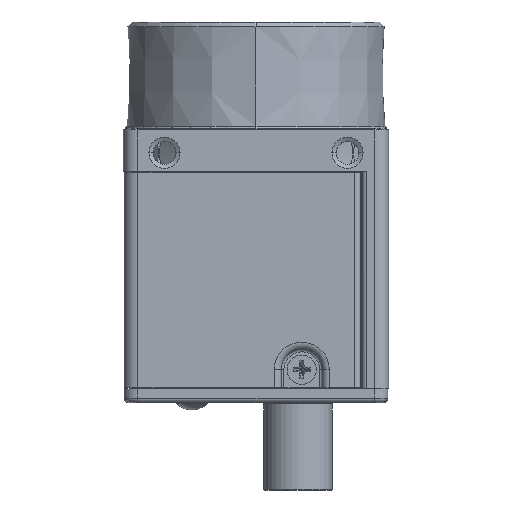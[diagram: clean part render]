
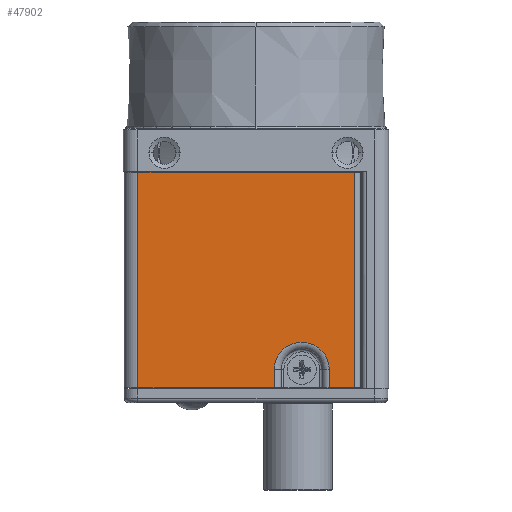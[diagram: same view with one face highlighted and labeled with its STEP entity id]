
A CAD part, left-side view. The second image highlights one B-rep face of the part: STEP entity #47902.
In plain terms, the highlighted planar face has unit normal (-1, 0, 0).
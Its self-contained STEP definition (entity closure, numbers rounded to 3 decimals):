
#9413=DIRECTION('',(0.,-1.,0.));
#9414=VECTOR('',#9413,14.892);
#9415=CARTESIAN_POINT('',(-14.4,12.9,-27.35));
#9416=LINE('',#9415,#9414);
#9452=DIRECTION('',(0.,-1.,0.));
#9453=VECTOR('',#9452,2.754);
#9454=CARTESIAN_POINT('',(-14.4,-8.008,-27.35));
#9455=LINE('',#9454,#9453);
#10065=DIRECTION('',(0.,0.,1.));
#10066=VECTOR('',#10065,23.6);
#10067=CARTESIAN_POINT('',(-14.4,-10.763,-27.35));
#10068=LINE('',#10067,#10066);
#10079=CARTESIAN_POINT('',(-14.4,-5.,-25.35));
#10080=DIRECTION('',(-1.,0.,0.));
#10081=DIRECTION('',(0.,-1.,0.));
#10082=AXIS2_PLACEMENT_3D('',#10079,#10080,#10081);
#10087=CARTESIAN_POINT('',(-14.4,-5.,-25.35));
#10088=DIRECTION('',(-1.,0.,0.));
#10089=DIRECTION('',(0.,-0.999,0.049));
#10090=AXIS2_PLACEMENT_3D('',#10087,#10088,#10089);
#10095=DIRECTION('',(0.,0.,-1.));
#10096=VECTOR('',#10095,2.);
#10097=CARTESIAN_POINT('',(-14.4,-8.008,-25.35));
#10098=LINE('',#10097,#10096);
#10169=DIRECTION('',(0.,0.,1.));
#10170=VECTOR('',#10169,2.);
#10171=CARTESIAN_POINT('',(-14.4,-1.992,-27.35));
#10172=LINE('',#10171,#10170);
#10907=DIRECTION('',(0.,0.,-1.));
#10908=VECTOR('',#10907,23.6);
#10909=CARTESIAN_POINT('',(-14.4,12.9,-3.75));
#10910=LINE('',#10909,#10908);
#10967=DIRECTION('',(0.,1.,0.));
#10968=VECTOR('',#10967,23.663);
#10969=CARTESIAN_POINT('',(-14.4,-10.763,-3.75));
#10970=LINE('',#10969,#10968);
#33782=CARTESIAN_POINT('',(-14.4,-10.763,-3.75));
#33783=VERTEX_POINT('',#33782);
#33784=CARTESIAN_POINT('',(-14.4,12.9,-3.75));
#33785=VERTEX_POINT('',#33784);
#33884=CARTESIAN_POINT('',(-14.4,12.9,-27.35));
#33885=VERTEX_POINT('',#33884);
#33886=CARTESIAN_POINT('',(-14.4,-1.992,-27.35));
#33887=VERTEX_POINT('',#33886);
#33896=CARTESIAN_POINT('',(-14.4,-8.008,-27.35));
#33897=VERTEX_POINT('',#33896);
#33898=CARTESIAN_POINT('',(-14.4,-10.763,-27.35));
#33899=VERTEX_POINT('',#33898);
#34172=CARTESIAN_POINT('',(-14.4,-8.008,-25.35));
#34173=VERTEX_POINT('',#34172);
#34174=CARTESIAN_POINT('',(-14.4,-8.005,-25.204));
#34175=VERTEX_POINT('',#34174);
#34176=CARTESIAN_POINT('',(-14.4,-1.992,-25.35));
#34177=VERTEX_POINT('',#34176);
#47880=CARTESIAN_POINT('',(-14.4,14.4,-27.45));
#47881=DIRECTION('',(-1.,0.,0.));
#47882=DIRECTION('',(0.,0.,-1.));
#47883=AXIS2_PLACEMENT_3D('',#47880,#47881,#47882);
#47884=PLANE('',#47883);
#47886=ORIENTED_EDGE('',*,*,#47885,.F.);
#47888=ORIENTED_EDGE('',*,*,#47887,.T.);
#47890=ORIENTED_EDGE('',*,*,#47889,.T.);
#47892=ORIENTED_EDGE('',*,*,#47891,.F.);
#47893=ORIENTED_EDGE('',*,*,#47190,.F.);
#47895=ORIENTED_EDGE('',*,*,#47894,.F.);
#47897=ORIENTED_EDGE('',*,*,#47896,.F.);
#47898=ORIENTED_EDGE('',*,*,#47865,.F.);
#47899=ORIENTED_EDGE('',*,*,#47202,.F.);
#47900=EDGE_LOOP('',(#47886,#47888,#47890,#47892,#47893,#47895,#47897,#47898,
#47899));
#47901=FACE_OUTER_BOUND('',#47900,.F.);
#47902=ADVANCED_FACE('',(#47901),#47884,.T.);
#10083=CIRCLE('',#10082,3.008);
#10091=CIRCLE('',#10090,3.008);
#47190=EDGE_CURVE('',#33885,#33887,#9416,.T.);
#47202=EDGE_CURVE('',#33897,#33899,#9455,.T.);
#47865=EDGE_CURVE('',#33899,#33783,#10068,.T.);
#47885=EDGE_CURVE('',#34173,#33897,#10098,.T.);
#47887=EDGE_CURVE('',#34173,#34175,#10083,.T.);
#47889=EDGE_CURVE('',#34175,#34177,#10091,.T.);
#47891=EDGE_CURVE('',#33887,#34177,#10172,.T.);
#47894=EDGE_CURVE('',#33785,#33885,#10910,.T.);
#47896=EDGE_CURVE('',#33783,#33785,#10970,.T.);
